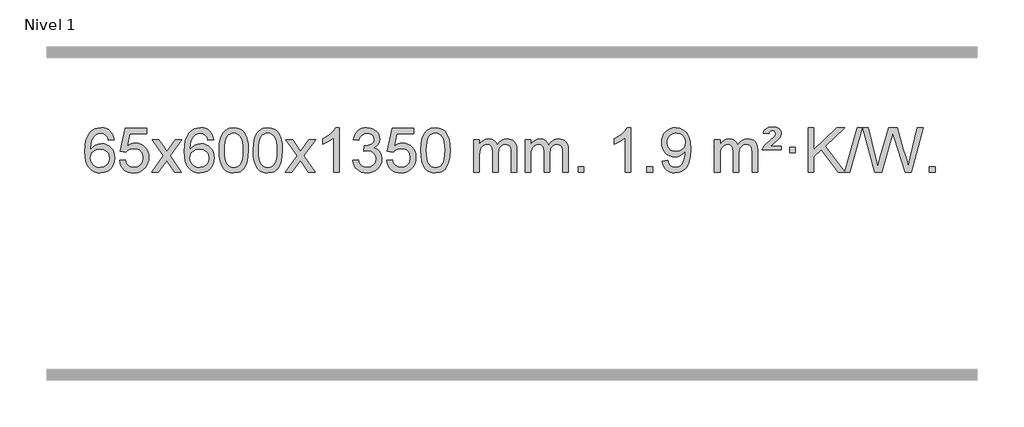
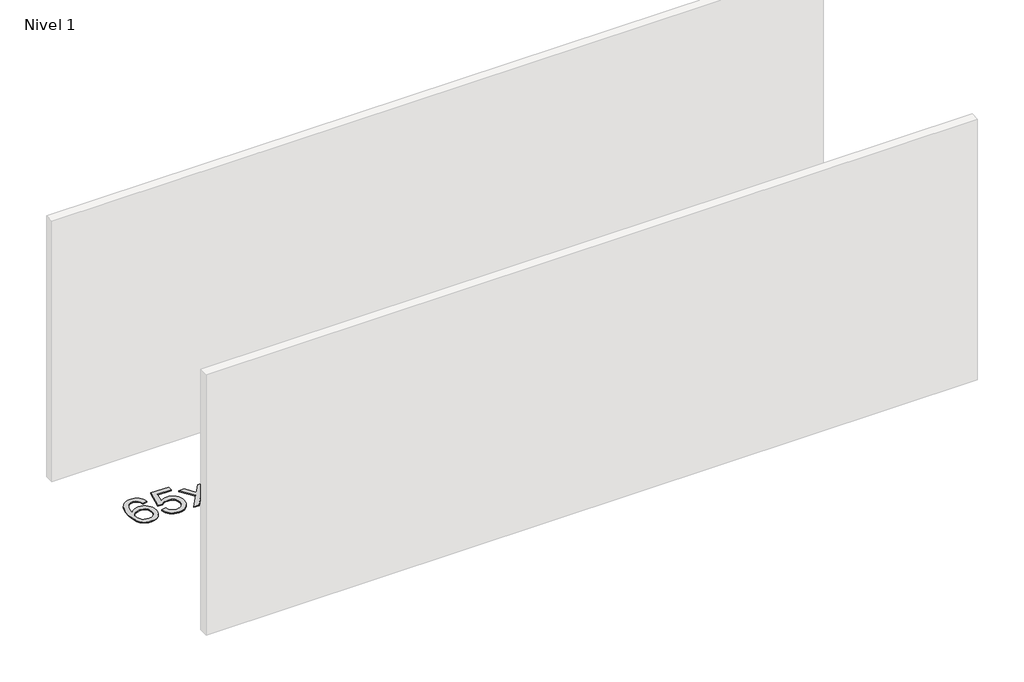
# One storey, part 8 of 10: 1 proxy.
"""IFC4 building model written with IfcOpenShell, lengths in millimetres."""

from ifc_helpers import new_model, si_unit, origin, origin_with_axes, place, context, project, spatial, polyline, outline, extrude, element, save

model = new_model("IFC4")

# Units and contexts
model_context = context("Model", 3, world=origin())
ifc_project = project(units=[si_unit("LENGTHUNIT", "METRE", prefix="MILLI")], contexts=[model_context])

# Site, building, storey
site = spatial("IfcSite", under=ifc_project)
building = spatial("IfcBuilding", under=site)
storey = spatial("IfcBuildingStorey", under=building, Name="Nivel 1", Elevation=0.0)

# Proxy
placement = place(None, origin())
element("IfcBuildingElementProxy", 1, Name="Texto de modelo 1", ObjectType="Texto de modelo 1", at=placement, inside=storey, context=model_context, shape_type="SweptSolid", body=[
    extrude(outline(polyline([(-13868.7310862, 8918.5483619), (-13918.9592412, 8912.2698426), (-13927.0526451, 8937.1631909), (-13937.9910031, 8954.1593391), (-13960.7751614, 8969.8311121), (-13988.3172601, 8975.0550364), (-14011.665504, 8972.0138786), (-14033.6403219, 8962.8904051), (-14052.5126682, 8943.6747022), (-14067.9269238, 8917.2239868), (-14078.3379843, 8879.8103879), (-14082.2007452, 8827.7060346), (-14062.0530746, 8851.2136941), (-14037.907753, 8867.7806466), (-14011.113681, 8877.6030959), (-13983.0197593, 8880.8772456), (-13958.8867005, 8878.6392968), (-13936.617577, 8871.9254504), (-13916.212389, 8860.7357064), (-13897.6711365, 8845.0700648), (-13882.2630122, 8825.8604933), (-13871.2572092, 8804.0389596), (-13864.6537274, 8779.6054637), (-13862.4525668, 8752.5600057), (-13866.5973706, 8716.5934093), (-13879.031782, 8683.2510378), (-13898.7257315, 8654.9731751), (-13924.6491494, 8634.2001051), (-13955.6248134, 8621.4345999), (-13990.4755011, 8617.1794315), (-14020.4180298, 8619.9998601), (-14047.4604222, 8628.461146), (-14071.6026781, 8642.5632892), (-14092.8447976, 8662.3062896), (-14110.1628426, 8688.5240131), (-14122.5328746, 8722.0503256), (-14129.9548939, 8762.8852271), (-14132.4289003, 8811.0287175), (-14129.6820481, 8865.0031376), (-14121.4414914, 8911.0680947), (-14107.7072302, 8949.223589), (-14088.4792646, 8979.4696204), (-14067.6387496, 8999.5130577), (-14043.4750339, 9013.8297987), (-14015.9881175, 9022.4198433), (-13985.1780004, 9025.2831915), (-13962.0443542, 9023.5112265), (-13941.1057374, 9018.1953317), (-13922.3621497, 9009.335507), (-13905.8135913, 8996.9317524), (-13891.9076519, 8981.4010008), (-13881.0919212, 8963.1601852), (-13873.3663993, 8942.2093056), (-13868.7310862, 8918.5483619)]), holes=[polyline([(-14082.2007452, 8753.3448206), (-14079.2944775, 8731.0879599), (-14070.5756742, 8709.8366434), (-14057.0376168, 8691.5651709), (-14039.6735866, 8678.2478427), (-14018.7165756, 8670.1176506), (-13994.3995757, 8667.4075866), (-13961.253408, 8673.0239184), (-13947.3382715, 8680.0443331), (-13935.1951, 8689.8729137), (-13925.3450595, 8702.1111215), (-13918.3093164, 8716.3604174), (-13912.6807219, 8750.892274), (-13918.23574, 8784.0384418), (-13925.1795126, 8797.6592727), (-13934.9007944, 8809.3119348), (-13947.0807541, 8818.6469405), (-13961.4005608, 8825.3148016), (-13996.4597149, 8830.6490906), (-14029.5568317, 8825.3148016), (-14057.2338205, 8809.3119348), (-14068.1568501, 8797.8125568), (-14075.9590141, 8784.6515784), (-14080.6403124, 8769.8289997), (-14082.2007452, 8753.3448206)])]), origin_with_axes(), (0.0, 0.0, 1.0), 10.0),
    extrude(outline(polyline([(-13818.5029311, 8730.1927804), (-13768.274776, 8736.4712998), (-13759.0532007, 8706.3172389), (-13742.9644948, 8684.7225658), (-13720.0822347, 8671.7363314), (-13690.4799968, 8667.4075866), (-13671.350133, 8668.9128371), (-13654.4766122, 8673.4285886), (-13639.8594342, 8680.954841), (-13627.4985992, 8691.4915945), (-13617.6700186, 8704.5176828), (-13610.6496038, 8719.5119398), (-13605.033272, 8755.4049598), (-13610.2939846, 8789.2010524), (-13616.8698752, 8803.1192546), (-13626.0761222, 8815.050894), (-13637.9433822, 8824.6219572), (-13652.5023121, 8831.458431), (-13689.6951819, 8836.92761), (-13714.0612327, 8834.7448434), (-13733.7919703, 8828.1965439), (-13749.5495825, 8818.1656282), (-13761.9962566, 8805.535013), (-13812.2244117, 8811.8135324), (-13768.274776, 9019.0046721), (-13573.6406751, 9019.0046721), (-13573.6406751, 8968.776517), (-13727.6606038, 8968.776517), (-13749.1449123, 8858.1176129), (-13731.4191315, 8870.8218044), (-13713.264155, 8879.896227), (-13694.6799829, 8885.3408805), (-13675.6666151, 8887.155765), (-13651.2055281, 8884.9055535), (-13628.7371353, 8878.1549189), (-13608.2614365, 8866.9038612), (-13589.778432, 8851.1523804), (-13574.4776066, 8831.8631012), (-13563.5484457, 8809.9986479), (-13556.9909491, 8785.5590207), (-13554.805117, 8758.5442195), (-13556.7732856, 8732.5226997), (-13562.6777917, 8708.3160644), (-13572.518635, 8685.9243137), (-13586.2958157, 8665.3474474), (-13607.1669876, 8644.2739404), (-13631.5207757, 8629.2214355), (-13659.35718, 8620.1899325), (-13690.6762005, 8617.1794315), (-13716.5965528, 8619.1138777), (-13740.0091761, 8624.9172161), (-13760.9140704, 8634.5894469), (-13779.3112359, 8648.13057), (-13794.6181926, 8664.8661351), (-13806.2524607, 8684.1216919), (-13814.2140402, 8705.8972403), (-13818.5029311, 8730.1927804)])), origin_with_axes(), (0.0, 0.0, 1.0), 10.0),
    extrude(outline(polyline([(-13529.6910394, 8623.4579509), (-13422.3675987, 8771.7879713), (-13523.41252, 8918.5483619), (-13462.981771, 8918.5483619), (-13414.2251439, 8847.9150189), (-13391.4655111, 8814.5603846), (-13371.7470362, 8841.8327032), (-13316.2213804, 8918.5483619), (-13255.7906313, 8918.5483619), (-13361.9368496, 8771.7879713), (-13259.7147059, 8623.4579509), (-13320.145455, 8623.4579509), (-13381.6553246, 8712.6325465), (-13392.9370391, 8728.9174562), (-13469.2602903, 8623.4579509), (-13529.6910394, 8623.4579509)])), origin_with_axes(), (0.0, 0.0, 1.0), 10.0),
    extrude(outline(polyline([(-12970.9028142, 8918.5483619), (-13021.1309693, 8912.2698426), (-13029.2243732, 8937.1631909), (-13040.1627312, 8954.1593391), (-13062.9468894, 8969.8311121), (-13090.4889881, 8975.0550364), (-13113.8372321, 8972.0138786), (-13135.8120499, 8962.8904051), (-13154.6843963, 8943.6747022), (-13170.0986519, 8917.2239868), (-13180.5097123, 8879.8103879), (-13184.3724733, 8827.7060346), (-13164.2248027, 8851.2136941), (-13140.0794811, 8867.7806466), (-13113.2854091, 8877.6030959), (-13085.1914874, 8880.8772456), (-13061.0584285, 8878.6392968), (-13038.7893051, 8871.9254504), (-13018.3841171, 8860.7357064), (-12999.8428645, 8845.0700648), (-12984.4347403, 8825.8604933), (-12973.4289372, 8804.0389596), (-12966.8254554, 8779.6054637), (-12964.6242948, 8752.5600057), (-12968.7690986, 8716.5934093), (-12981.2035101, 8683.2510378), (-13000.8974596, 8654.9731751), (-13026.8208775, 8634.2001051), (-13057.7965415, 8621.4345999), (-13092.6472291, 8617.1794315), (-13122.5897579, 8619.9998601), (-13149.6321502, 8628.461146), (-13173.7744061, 8642.5632892), (-13195.0165257, 8662.3062896), (-13212.3345706, 8688.5240131), (-13224.7046027, 8722.0503256), (-13232.1266219, 8762.8852271), (-13234.6006284, 8811.0287175), (-13231.8537761, 8865.0031376), (-13223.6132194, 8911.0680947), (-13209.8789583, 8949.223589), (-13190.6509927, 8979.4696204), (-13169.8104776, 8999.5130577), (-13145.6467619, 9013.8297987), (-13118.1598455, 9022.4198433), (-13087.3497284, 9025.2831915), (-13064.2160823, 9023.5112265), (-13043.2774654, 9018.1953317), (-13024.5338777, 9009.335507), (-13007.9853193, 8996.9317524), (-12994.0793799, 8981.4010008), (-12983.2636492, 8963.1601852), (-12975.5381274, 8942.2093056), (-12970.9028142, 8918.5483619)]), holes=[polyline([(-13184.3724733, 8753.3448206), (-13181.4662055, 8731.0879599), (-13172.7474022, 8709.8366434), (-13159.2093448, 8691.5651709), (-13141.8453146, 8678.2478427), (-13120.8883036, 8670.1176506), (-13096.5713038, 8667.4075866), (-13063.425136, 8673.0239184), (-13049.5099995, 8680.0443331), (-13037.366828, 8689.8729137), (-13027.5167876, 8702.1111215), (-13020.4810444, 8716.3604174), (-13014.8524499, 8750.892274), (-13020.407468, 8784.0384418), (-13027.3512407, 8797.6592727), (-13037.0725224, 8809.3119348), (-13049.2524821, 8818.6469405), (-13063.5722888, 8825.3148016), (-13098.6314429, 8830.6490906), (-13131.7285598, 8825.3148016), (-13159.4055485, 8809.3119348), (-13170.3285781, 8797.8125568), (-13178.1307421, 8784.6515784), (-13182.8120405, 8769.8289997), (-13184.3724733, 8753.3448206)])]), origin_with_axes(), (0.0, 0.0, 1.0), 10.0),
    extrude(outline(polyline([(-12920.6746591, 8821.1332096), (-12916.9835765, 8885.4512451), (-12905.9103284, 8936.746258), (-12887.5652796, 8975.8030631), (-12875.7072166, 8991.0364434), (-12862.0587946, 9003.4064755), (-12846.5740283, 9012.9775387), (-12829.2069324, 9019.8140125), (-12788.8257521, 9025.2831915), (-12757.8746135, 9022.0458299), (-12730.1608366, 9012.3337453), (-12706.9842709, 8996.5270822), (-12689.6447662, 8975.0059855), (-12676.5481671, 8947.9543961), (-12666.1003185, 8915.5562551), (-12659.2577134, 8874.4147853), (-12656.976845, 8821.1332096), (-12660.6311395, 8757.1830561), (-12671.5940229, 8706.0106706), (-12689.8287072, 8666.9170772), (-12701.659179, 8651.6377117), (-12715.298404, 8639.2033003), (-12730.8015644, 8629.5678577), (-12748.2238425, 8622.6853987), (-12788.8257521, 8617.1794315), (-12816.4904781, 8619.5706645), (-12841.0159444, 8626.7443634), (-12862.4021511, 8638.7005282), (-12880.6490981, 8655.439159), (-12898.160281, 8685.6974531), (-12910.6682689, 8723.3992262), (-12918.1730616, 8768.5444784), (-12920.6746591, 8821.1332096)]), holes=[polyline([(-12870.4465041, 8821.2313115), (-12868.9749761, 8777.5667843), (-12864.5603921, 8742.2225217), (-12857.2027522, 8715.1985234), (-12846.9020564, 8696.4947897), (-12834.4431195, 8683.7691383), (-12820.6107564, 8674.6793873), (-12805.4049673, 8669.2255368), (-12788.8257521, 8667.4075866), (-12772.2465368, 8669.2316681), (-12757.0407477, 8674.7039128), (-12743.2083847, 8683.8243206), (-12730.7494478, 8696.5928915), (-12720.4487519, 8715.3272821), (-12713.091112, 8742.345149), (-12708.676528, 8777.6464921), (-12707.2050001, 8821.2313115), (-12708.6274771, 8863.740076), (-12712.8949083, 8898.462005), (-12720.0072935, 8925.3970984), (-12729.9646328, 8944.5453563), (-12742.2151033, 8957.8933413), (-12756.2068818, 8967.4276164), (-12771.9399685, 8973.1481814), (-12789.4143633, 8975.0550364), (-12805.9077394, 8973.375042), (-12820.8560111, 8968.3350586), (-12834.2591785, 8959.9350864), (-12846.1172414, 8948.1751253), (-12856.7612938, 8927.3284789), (-12864.3641884, 8899.2222945), (-12868.9259251, 8863.856572), (-12870.4465041, 8821.2313115)])]), origin_with_axes(), (0.0, 0.0, 1.0), 10.0),
    extrude(outline(polyline([(-12613.0272093, 8821.1332096), (-12609.3361266, 8885.4512451), (-12598.2628786, 8936.746258), (-12579.9178297, 8975.8030631), (-12568.0597668, 8991.0364434), (-12554.4113447, 9003.4064755), (-12538.9265784, 9012.9775387), (-12521.5594826, 9019.8140125), (-12481.1783022, 9025.2831915), (-12450.2271637, 9022.0458299), (-12422.5133867, 9012.3337453), (-12399.336821, 8996.5270822), (-12381.9973163, 8975.0059855), (-12368.9007173, 8947.9543961), (-12358.4528686, 8915.5562551), (-12351.6102635, 8874.4147853), (-12349.3293952, 8821.1332096), (-12352.9836896, 8757.1830561), (-12363.9465731, 8706.0106706), (-12382.1812573, 8666.9170772), (-12394.0117292, 8651.6377117), (-12407.6509541, 8639.2033003), (-12423.1541145, 8629.5678577), (-12440.5763927, 8622.6853987), (-12481.1783022, 8617.1794315), (-12508.8430283, 8619.5706645), (-12533.3684946, 8626.7443634), (-12554.7547013, 8638.7005282), (-12573.0016482, 8655.439159), (-12590.5128312, 8685.6974531), (-12603.020819, 8723.3992262), (-12610.5256117, 8768.5444784), (-12613.0272093, 8821.1332096)]), holes=[polyline([(-12562.7990542, 8821.2313115), (-12561.3275262, 8777.5667843), (-12556.9129423, 8742.2225217), (-12549.5553024, 8715.1985234), (-12539.2546065, 8696.4947897), (-12526.7956696, 8683.7691383), (-12512.9633066, 8674.6793873), (-12497.7575175, 8669.2255368), (-12481.1783022, 8667.4075866), (-12464.599087, 8669.2316681), (-12449.3932978, 8674.7039128), (-12435.5609348, 8683.8243206), (-12423.1019979, 8696.5928915), (-12412.8013021, 8715.3272821), (-12405.4436622, 8742.345149), (-12401.0290782, 8777.6464921), (-12399.5575502, 8821.2313115), (-12400.9800273, 8863.740076), (-12405.2474584, 8898.462005), (-12412.3598437, 8925.3970984), (-12422.317183, 8944.5453563), (-12434.5676534, 8957.8933413), (-12448.559432, 8967.4276164), (-12464.2925187, 8973.1481814), (-12481.7669134, 8975.0550364), (-12498.2602895, 8973.375042), (-12513.2085613, 8968.3350586), (-12526.6117286, 8959.9350864), (-12538.4697916, 8948.1751253), (-12549.113844, 8927.3284789), (-12556.7167386, 8899.2222945), (-12561.2784753, 8863.856572), (-12562.7990542, 8821.2313115)])]), origin_with_axes(), (0.0, 0.0, 1.0), 10.0),
    extrude(outline(polyline([(-12324.2153176, 8623.4579509), (-12216.8918769, 8771.7879713), (-12317.9367982, 8918.5483619), (-12257.5060492, 8918.5483619), (-12208.7494221, 8847.9150189), (-12185.9897893, 8814.5603846), (-12166.2713144, 8841.8327032), (-12110.7456586, 8918.5483619), (-12050.3149095, 8918.5483619), (-12156.4611278, 8771.7879713), (-12054.2389841, 8623.4579509), (-12114.6697332, 8623.4579509), (-12176.1796028, 8712.6325465), (-12187.4613173, 8728.9174562), (-12263.7845685, 8623.4579509), (-12324.2153176, 8623.4579509)])), origin_with_axes(), (0.0, 0.0, 1.0), 10.0),
    extrude(outline(polyline([(-11834.4908056, 8623.4579509), (-11884.7189607, 8623.4579509), (-11884.7189607, 8936.5991052), (-11905.6882344, 8919.6397452), (-11932.2983654, 8902.7049107), (-11985.1752709, 8877.3455785), (-11985.1752709, 8924.8268813), (-11945.7260583, 8946.2866644), (-11911.5498209, 8971.8176749), (-11884.6085961, 8998.9673661), (-11866.8644212, 9025.2831915), (-11834.4908056, 9025.2831915), (-11834.4908056, 8623.4579509)])), origin_with_axes(), (0.0, 0.0, 1.0), 10.0),
    extrude(outline(polyline([(-11715.1989373, 8730.1927804), (-11664.9707823, 8736.4712998), (-11653.7258559, 8704.9070246), (-11637.2570053, 8683.5943944), (-11614.7548899, 8671.4542885), (-11585.4101694, 8667.4075866), (-11550.9764147, 8672.9748674), (-11536.7025933, 8679.9339685), (-11524.3908092, 8689.67671), (-11507.394661, 8714.5945838), (-11501.7292783, 8744.8099584), (-11507.3456101, 8773.4924913), (-11524.1946054, 8796.7548961), (-11549.7010904, 8812.1691517), (-11581.2898911, 8817.3072369), (-11616.5084608, 8811.8135324), (-11610.9166544, 8862.0416875), (-11602.8723015, 8861.4530763), (-11572.7795543, 8865.0583199), (-11545.8751177, 8875.8740505), (-11534.8018696, 8884.0532935), (-11526.8924067, 8894.1700484), (-11522.146729, 8906.2243151), (-11520.5648364, 8920.2160937), (-11525.1510986, 8941.9088686), (-11538.9098853, 8959.5058907), (-11559.9036844, 8971.16775), (-11586.1949844, 8975.0550364), (-11612.5353352, 8971.1309618), (-11634.0686947, 8959.3587379), (-11649.7895186, 8939.7383649), (-11658.6922629, 8912.2698426), (-11708.920418, 8918.5483619), (-11702.966861, 8942.5281367), (-11694.1315618, 8963.6506946), (-11682.4145202, 8981.9160356), (-11667.8157364, 8997.3241599), (-11650.7950627, 9009.5562362), (-11631.8123518, 9018.2934336), (-11610.8676035, 9023.535752), (-11587.9608179, 9025.2831915), (-11556.38428, 9021.8373635), (-11527.3829161, 9011.4998794), (-11502.9310261, 8995.1904443), (-11485.0029102, 8973.8287631), (-11474.0032386, 8949.2174576), (-11470.3366814, 8923.1591496), (-11473.8192976, 8898.8789379), (-11484.2671462, 8876.8550692), (-11501.5330745, 8858.0930874), (-11525.4699297, 8843.5985368), (-11494.0282818, 8830.8943452), (-11470.7290888, 8809.2628839), (-11456.3081146, 8779.8813752), (-11451.5011232, 8743.9270416), (-11453.9046189, 8718.445082), (-11461.115106, 8694.9742107), (-11473.1325845, 8673.5144277), (-11489.9570544, 8654.0657329), (-11510.4542129, 8637.927976), (-11533.4897572, 8626.4010068), (-11559.0636872, 8619.4848253), (-11587.176003, 8617.1794315), (-11612.5843862, 8619.1476002), (-11635.7364264, 8625.0521062), (-11656.6321237, 8634.8929496), (-11675.2714781, 8648.6701303), (-11690.9003316, 8665.574308), (-11702.7645259, 8684.7961422), (-11710.8640612, 8706.335633), (-11715.1989373, 8730.1927804)])), origin_with_axes(), (0.0, 0.0, 1.0), 10.0),
    extrude(outline(polyline([(-11407.5514875, 8730.1927804), (-11357.3233324, 8736.4712998), (-11348.1017571, 8706.3172389), (-11332.0130512, 8684.7225658), (-11309.1307911, 8671.7363314), (-11279.5285532, 8667.4075866), (-11260.3986894, 8668.9128371), (-11243.5251686, 8673.4285886), (-11228.9079907, 8680.954841), (-11216.5471556, 8691.4915945), (-11206.718575, 8704.5176828), (-11199.6981602, 8719.5119398), (-11194.0818284, 8755.4049598), (-11199.342541, 8789.2010524), (-11205.9184316, 8803.1192546), (-11215.1246786, 8815.050894), (-11226.9919386, 8824.6219572), (-11241.5508686, 8831.458431), (-11278.7437383, 8836.92761), (-11303.1097891, 8834.7448434), (-11322.8405268, 8828.1965439), (-11338.5981389, 8818.1656282), (-11351.044813, 8805.535013), (-11401.2729681, 8811.8135324), (-11357.3233324, 9019.0046721), (-11162.6892315, 9019.0046721), (-11162.6892315, 8968.776517), (-11316.7091602, 8968.776517), (-11338.1934687, 8858.1176129), (-11320.4676879, 8870.8218044), (-11302.3127114, 8879.896227), (-11283.7285393, 8885.3408805), (-11264.7151715, 8887.155765), (-11240.2540845, 8884.9055535), (-11217.7856917, 8878.1549189), (-11197.3099929, 8866.9038612), (-11178.8269884, 8851.1523804), (-11163.5261631, 8831.8631012), (-11152.5970021, 8809.9986479), (-11146.0395056, 8785.5590207), (-11143.8536734, 8758.5442195), (-11145.821842, 8732.5226997), (-11151.7263481, 8708.3160644), (-11161.5671914, 8685.9243137), (-11175.3443722, 8665.3474474), (-11196.215544, 8644.2739404), (-11220.5693321, 8629.2214355), (-11248.4057364, 8620.1899325), (-11279.7247569, 8617.1794315), (-11305.6451092, 8619.1138777), (-11329.0577325, 8624.9172161), (-11349.9626268, 8634.5894469), (-11368.3597923, 8648.13057), (-11383.666749, 8664.8661351), (-11395.3010171, 8684.1216919), (-11403.2625966, 8705.8972403), (-11407.5514875, 8730.1927804)])), origin_with_axes(), (0.0, 0.0, 1.0), 10.0),
    extrude(outline(polyline([(-11099.9040377, 8821.1332096), (-11096.212955, 8885.4512451), (-11085.1397069, 8936.746258), (-11066.7946581, 8975.8030631), (-11054.9365951, 8991.0364434), (-11041.2881731, 9003.4064755), (-11025.8034068, 9012.9775387), (-11008.4363109, 9019.8140125), (-10968.0551306, 9025.2831915), (-10937.1039921, 9022.0458299), (-10909.3902151, 9012.3337453), (-10886.2136494, 8996.5270822), (-10868.8741447, 8975.0059855), (-10855.7775457, 8947.9543961), (-10845.329697, 8915.5562551), (-10838.4870919, 8874.4147853), (-10836.2062235, 8821.1332096), (-10839.860518, 8757.1830561), (-10850.8234015, 8706.0106706), (-10869.0580857, 8666.9170772), (-10880.8885575, 8651.6377117), (-10894.5277825, 8639.2033003), (-10910.0309429, 8629.5678577), (-10927.4532211, 8622.6853987), (-10968.0551306, 8617.1794315), (-10995.7198566, 8619.5706645), (-11020.245323, 8626.7443634), (-11041.6315296, 8638.7005282), (-11059.8784766, 8655.439159), (-11077.3896596, 8685.6974531), (-11089.8976474, 8723.3992262), (-11097.4024401, 8768.5444784), (-11099.9040377, 8821.1332096)]), holes=[polyline([(-11049.6758826, 8821.2313115), (-11048.2043546, 8777.5667843), (-11043.7897707, 8742.2225217), (-11036.4321308, 8715.1985234), (-11026.1314349, 8696.4947897), (-11013.672498, 8683.7691383), (-10999.840135, 8674.6793873), (-10984.6343459, 8669.2255368), (-10968.0551306, 8667.4075866), (-10951.4759154, 8669.2316681), (-10936.2701262, 8674.7039128), (-10922.4377632, 8683.8243206), (-10909.9788263, 8696.5928915), (-10899.6781304, 8715.3272821), (-10892.3204905, 8742.345149), (-10887.9059066, 8777.6464921), (-10886.4343786, 8821.2313115), (-10887.8568557, 8863.740076), (-10892.1242868, 8898.462005), (-10899.236672, 8925.3970984), (-10909.1940114, 8944.5453563), (-10921.4444818, 8957.8933413), (-10935.4362604, 8967.4276164), (-10951.169347, 8973.1481814), (-10968.6437418, 8975.0550364), (-10985.1371179, 8973.375042), (-11000.0853897, 8968.3350586), (-11013.488557, 8959.9350864), (-11025.34662, 8948.1751253), (-11035.9906724, 8927.3284789), (-11043.5935669, 8899.2222945), (-11048.1553037, 8863.856572), (-11049.6758826, 8821.2313115)])]), origin_with_axes(), (0.0, 0.0, 1.0), 10.0),
    extrude(outline(polyline([(-10622.7365645, 8623.4579509), (-10622.7365645, 8918.5483619), (-10572.5084094, 8918.5483619), (-10572.5084094, 8869.9879386), (-10557.4007221, 8892.2938502), (-10537.9765528, 8909.768245), (-10514.8980889, 8921.0622222), (-10488.8275182, 8924.8268813), (-10460.8930121, 8920.9886459), (-10438.5012613, 8909.4739394), (-10421.7748932, 8891.0430514), (-10410.8365352, 8866.4562714), (-10392.5282746, 8891.9934133), (-10371.64484, 8910.2342289), (-10348.1862315, 8921.1787182), (-10322.1524489, 8924.8268813), (-10302.0446322, 8923.3093681), (-10284.3954935, 8918.7568284), (-10269.2050328, 8911.1692623), (-10256.4732501, 8900.5466697), (-10246.4086118, 8886.7664232), (-10239.2195845, 8869.7058957), (-10234.9061681, 8849.3650871), (-10233.4683626, 8825.7439973), (-10233.4683626, 8623.4579509), (-10283.6965177, 8623.4579509), (-10283.6965177, 8804.1615869), (-10284.8614774, 8829.2143508), (-10288.3563563, 8846.1001344), (-10294.9046558, 8857.6638917), (-10305.2298772, 8866.750577), (-10318.5104172, 8872.636689), (-10333.9246728, 8874.5987263), (-10361.1356777, 8869.5710057), (-10383.318962, 8854.4878439), (-10391.924335, 8842.9179551), (-10398.07103, 8828.3191713), (-10402.988386, 8790.0349183), (-10402.988386, 8623.4579509), (-10453.2165411, 8623.4579509), (-10453.2165411, 8809.7533932), (-10456.1228088, 8838.1538833), (-10464.8416121, 8858.4119185), (-10480.1822913, 8870.5520243), (-10502.9541868, 8874.5987263), (-10522.3047798, 8871.900925), (-10540.1347938, 8863.8075211), (-10554.8500736, 8850.5147183), (-10564.8564639, 8832.2187204), (-10570.595423, 8806.8348627), (-10572.5084094, 8772.2784807), (-10572.5084094, 8623.4579509), (-10622.7365645, 8623.4579509)])), origin_with_axes(), (0.0, 0.0, 1.0), 10.0),
    extrude(outline(polyline([(-10158.12613, 8623.4579509), (-10158.12613, 8918.5483619), (-10107.8979749, 8918.5483619), (-10107.8979749, 8869.9879386), (-10092.7902877, 8892.2938502), (-10073.3661183, 8909.768245), (-10050.2876545, 8921.0622222), (-10024.2170838, 8924.8268813), (-9996.2825776, 8920.9886459), (-9973.8908268, 8909.4739394), (-9957.1644588, 8891.0430514), (-9946.2261008, 8866.4562714), (-9927.9178402, 8891.9934133), (-9907.0344056, 8910.2342289), (-9883.575797, 8921.1787182), (-9857.5420145, 8924.8268813), (-9837.4341978, 8923.3093681), (-9819.7850591, 8918.7568284), (-9804.5945983, 8911.1692623), (-9791.8628156, 8900.5466697), (-9781.7981774, 8886.7664232), (-9774.6091501, 8869.7058957), (-9770.2957337, 8849.3650871), (-9768.8579282, 8825.7439973), (-9768.8579282, 8623.4579509), (-9819.0860833, 8623.4579509), (-9819.0860833, 8804.1615869), (-9820.2510429, 8829.2143508), (-9823.7459219, 8846.1001344), (-9830.2942214, 8857.6638917), (-9840.6194427, 8866.750577), (-9853.8999827, 8872.636689), (-9869.3142383, 8874.5987263), (-9896.5252433, 8869.5710057), (-9918.7085276, 8854.4878439), (-9927.3139006, 8842.9179551), (-9933.4605956, 8828.3191713), (-9938.3779516, 8790.0349183), (-9938.3779516, 8623.4579509), (-9988.6061066, 8623.4579509), (-9988.6061066, 8809.7533932), (-9991.5123744, 8838.1538833), (-10000.2311777, 8858.4119185), (-10015.5718569, 8870.5520243), (-10038.3437524, 8874.5987263), (-10057.6943453, 8871.900925), (-10075.5243594, 8863.8075211), (-10090.2396392, 8850.5147183), (-10100.2460294, 8832.2187204), (-10105.9849886, 8806.8348627), (-10107.8979749, 8772.2784807), (-10107.8979749, 8623.4579509), (-10158.12613, 8623.4579509)])), origin_with_axes(), (0.0, 0.0, 1.0), 10.0),
    extrude(outline(polyline([(-9680.9586568, 8623.4579509), (-9680.9586568, 8673.686106), (-9630.7305017, 8673.686106), (-9630.7305017, 8623.4579509), (-9680.9586568, 8623.4579509)])), origin_with_axes(), (0.0, 0.0, 1.0), 10.0),
    extrude(outline(polyline([(-9203.7911836, 8623.4579509), (-9254.0193387, 8623.4579509), (-9254.0193387, 8936.5991052), (-9274.9886124, 8919.6397452), (-9301.5987434, 8902.7049107), (-9354.4756488, 8877.3455785), (-9354.4756488, 8924.8268813), (-9315.0264362, 8946.2866644), (-9280.8501989, 8971.8176749), (-9253.9089741, 8998.9673661), (-9236.1647992, 9025.2831915), (-9203.7911836, 9025.2831915), (-9203.7911836, 8623.4579509)])), origin_with_axes(), (0.0, 0.0, 1.0), 10.0),
    extrude(outline(polyline([(-9059.3852378, 8623.4579509), (-9059.3852378, 8673.686106), (-9009.1570827, 8673.686106), (-9009.1570827, 8623.4579509), (-9059.3852378, 8623.4579509)])), origin_with_axes(), (0.0, 0.0, 1.0), 10.0),
    extrude(outline(polyline([(-8921.2578113, 8723.914261), (-8871.0296562, 8730.1927804), (-8862.445743, 8701.6819258), (-8848.4662272, 8682.2700192), (-8829.4344653, 8671.1231947), (-8805.6938139, 8667.4075866), (-8784.3934464, 8669.7988195), (-8765.0305907, 8676.9725185), (-8748.9418848, 8688.1438684), (-8737.4639665, 8702.5280544), (-8721.0319041, 8746.1833845), (-8715.5872505, 8774.5838745), (-8713.772366, 8804.4558925), (-8714.0666716, 8814.2660791), (-8731.46749, 8793.0270252), (-8754.2393855, 8776.2025553), (-8780.7391519, 8765.2396718), (-8809.3235829, 8761.5853773), (-8833.183796, 8763.8171948), (-8855.1248913, 8770.5126471), (-8875.1468689, 8781.6717343), (-8893.2497287, 8797.2944563), (-8908.2501171, 8816.5653415), (-8918.9646802, 8838.6689181), (-8925.3934181, 8863.605186), (-8927.5363307, 8891.3741452), (-8925.2891848, 8920.0689409), (-8918.5477473, 8945.8206805), (-8907.312018, 8968.6293642), (-8891.581997, 8988.494992), (-8872.4674617, 9004.5898293), (-8851.0781894, 9016.0861416), (-8827.41418, 9022.983929), (-8801.4754337, 9025.2831915), (-8764.0127838, 9020.0347417), (-8729.9101229, 9004.2893923), (-8701.3870055, 8978.8319582), (-8680.6629865, 8944.4472544), (-8668.044634, 8896.9169006), (-8663.8385165, 8832.0225167), (-8668.0323713, 8763.2163209), (-8680.6139355, 8710.0328471), (-8701.4728447, 8670.0685997), (-8714.9649168, 8654.142375), (-8730.4987341, 8640.9200829), (-8747.7615967, 8630.5335479), (-8766.440805, 8623.1145944), (-8808.0482587, 8617.1794315), (-8830.6055563, 8618.9299367), (-8850.9923502, 8624.1814521), (-8869.2086404, 8632.9339779), (-8885.2544267, 8645.1875141), (-8898.7250391, 8660.6109667), (-8909.2158073, 8678.8732421), (-8916.7267314, 8699.9743402), (-8921.2578113, 8723.914261)]), holes=[polyline([(-8714.0666716, 8892.5513676), (-8719.4867997, 8926.5927149), (-8726.2619598, 8940.6703326), (-8735.7471839, 8952.785913), (-8747.4764882, 8962.5286545), (-8760.9838887, 8969.4877555), (-8793.3329788, 8975.0550364), (-8810.9422637, 8973.5559173), (-8826.8838168, 8969.0585599), (-8841.1576382, 8961.5629642), (-8853.7637279, 8951.0691303), (-8864.0644238, 8938.1901948), (-8871.4220637, 8923.5392944), (-8875.8366476, 8907.1164289), (-8877.3081756, 8888.9215986), (-8871.7408948, 8857.8846209), (-8864.7817937, 8844.7665621), (-8855.0390522, 8833.24879), (-8842.9173404, 8823.8708648), (-8828.8213287, 8817.1723468), (-8794.706405, 8811.8135324), (-8762.6148323, 8817.1723468), (-8736.7772535, 8833.24879), (-8726.8413739, 8844.9934227), (-8719.7443171, 8858.7920632), (-8714.0666716, 8892.5513676)])]), origin_with_axes(), (0.0, 0.0, 1.0), 10.0),
    extrude(outline(polyline([(-8450.3688575, 8623.4579509), (-8450.3688575, 8918.5483619), (-8400.1407024, 8918.5483619), (-8400.1407024, 8869.9879386), (-8385.0330151, 8892.2938502), (-8365.6088458, 8909.768245), (-8342.530382, 8921.0622222), (-8316.4598112, 8924.8268813), (-8288.5253051, 8920.9886459), (-8266.1335543, 8909.4739394), (-8249.4071862, 8891.0430514), (-8238.4688283, 8866.4562714), (-8220.1605676, 8891.9934133), (-8199.277133, 8910.2342289), (-8175.8185245, 8921.1787182), (-8149.784742, 8924.8268813), (-8129.6769252, 8923.3093681), (-8112.0277865, 8918.7568284), (-8096.8373258, 8911.1692623), (-8084.1055431, 8900.5466697), (-8074.0409048, 8886.7664232), (-8066.8518775, 8869.7058957), (-8062.5384611, 8849.3650871), (-8061.1006556, 8825.7439973), (-8061.1006556, 8623.4579509), (-8111.3288107, 8623.4579509), (-8111.3288107, 8804.1615869), (-8112.4937704, 8829.2143508), (-8115.9886493, 8846.1001344), (-8122.5369488, 8857.6638917), (-8132.8621702, 8866.750577), (-8146.1427102, 8872.636689), (-8161.5569658, 8874.5987263), (-8188.7679707, 8869.5710057), (-8210.951255, 8854.4878439), (-8219.556628, 8842.9179551), (-8225.703323, 8828.3191713), (-8230.620679, 8790.0349183), (-8230.620679, 8623.4579509), (-8280.8488341, 8623.4579509), (-8280.8488341, 8809.7533932), (-8283.7551019, 8838.1538833), (-8292.4739051, 8858.4119185), (-8307.8145843, 8870.5520243), (-8330.5864798, 8874.5987263), (-8349.9370728, 8871.900925), (-8367.7670868, 8863.8075211), (-8382.4823666, 8850.5147183), (-8392.4887569, 8832.2187204), (-8398.227716, 8806.8348627), (-8400.1407024, 8772.2784807), (-8400.1407024, 8623.4579509), (-8450.3688575, 8623.4579509)])), origin_with_axes(), (0.0, 0.0, 1.0), 10.0),
    extrude(outline(polyline([(-8017.15102, 8824.3705712), (-8013.3250472, 8840.189497), (-8004.9863887, 8856.0574737), (-7983.4775547, 8881.1960767), (-7951.520872, 8908.9343791), (-7907.3750326, 8946.3111899), (-7900.2381219, 8957.838159), (-7897.8591517, 8969.6594338), (-7899.7476126, 8981.7504887), (-7905.4129953, 8991.5361498), (-7914.7817234, 8998.0108729), (-7927.7802206, 9000.1691139), (-7940.214632, 8998.5504332), (-7949.0683254, 8993.6943908), (-7955.4939976, 8984.2275608), (-7960.6443455, 8968.776517), (-8010.8725006, 8975.0550364), (-8000.0322444, 9000.2672158), (-7983.4039783, 9017.8274497), (-7959.6388014, 9028.1281456), (-7927.3878131, 9031.5617109), (-7891.6051577, 9027.4291698), (-7866.8589622, 9015.0315466), (-7852.437988, 8996.6987605), (-7847.6309966, 8974.7607308), (-7851.7267495, 8951.8539452), (-7864.0140081, 8930.2224839), (-7884.5418234, 8910.4059071), (-7921.0111919, 8882.3487736), (-7946.6157787, 8855.7631681), (-7847.6309966, 8855.7631681), (-7847.6309966, 8824.3705712), (-8017.15102, 8824.3705712)])), origin_with_axes(), (0.0, 0.0, 1.0), 10.0),
    extrude(outline(polyline([(-7772.288764, 8799.2564936), (-7772.288764, 8849.4846487), (-7722.0606089, 8849.4846487), (-7722.0606089, 8799.2564936), (-7772.288764, 8799.2564936)])), origin_with_axes(), (0.0, 0.0, 1.0), 10.0),
    extrude(outline(polyline([(-7331.4189809, 8623.4579509), (-7484.8502984, 8826.1364048), (-7552.5405855, 8761.5853773), (-7552.5405855, 8623.4579509), (-7602.7687406, 8623.4579509), (-7602.7687406, 9025.2831915), (-7552.5405855, 9025.2831915), (-7552.5405855, 8828.5889514), (-7346.5266682, 9025.2831915), (-7276.2857326, 9025.2831915), (-7449.2393213, 8860.0796502), (-7274.5857114, 8629.5024707), (-7163.2723837, 9025.2831915), (-7117.9493219, 9025.2831915), (-7230.9626708, 8623.4579509), (-7270.0072132, 8623.4579509), (-7276.2857326, 8623.4579509), (-7331.4189809, 8623.4579509)])), origin_with_axes(), (0.0, 0.0, 1.0), 10.0),
    extrude(outline(polyline([(-7003.464445, 8623.4579509), (-7113.0442286, 9025.2831915), (-7061.2464437, 9025.2831915), (-6997.6764349, 8761.1929699), (-6978.0560618, 8679.6703197), (-6957.0622627, 8751.7751908), (-6877.403548, 9025.2831915), (-6802.7480284, 9025.2831915), (-6744.8679278, 8827.0193215), (-6720.0726814, 8753.4429225), (-6701.8012089, 8679.6703197), (-6682.7694471, 8758.8385251), (-6618.6108271, 9025.2831915), (-6566.8130422, 9025.2831915), (-6676.4909277, 8623.4579509), (-6730.152648, 8623.4579509), (-6826.4886798, 8933.4598455), (-6839.9286354, 8976.7227681), (-6855.0363227, 8924.6306776), (-6942.8374922, 8623.4579509), (-7003.464445, 8623.4579509)])), origin_with_axes(), (0.0, 0.0, 1.0), 10.0),
    extrude(outline(polyline([(-6510.3063677, 8623.4579509), (-6510.3063677, 8673.686106), (-6460.0782126, 8673.686106), (-6460.0782126, 8623.4579509), (-6510.3063677, 8623.4579509)])), origin_with_axes(), (0.0, 0.0, 1.0), 10.0),
])

save(model, "model.ifc")
